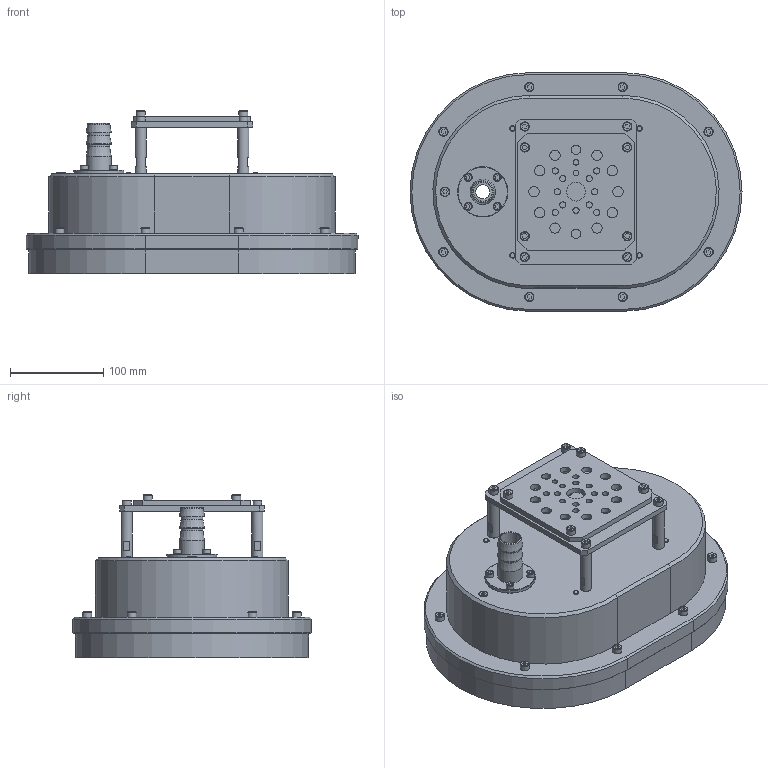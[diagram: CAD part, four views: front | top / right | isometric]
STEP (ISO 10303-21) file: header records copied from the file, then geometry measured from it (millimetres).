
FILE_DESCRIPTION(('STEP AP203'),'1');
FILE_NAME('SGP-H2B-250X350-CRT30-G02.stp','2024-08-07T07:22:05',(' '),(' '),'Spatial InterOp 3D',' ',' ');
FILE_SCHEMA(('CONFIG_CONTROL_DESIGN'));
Length unit declared in the file: millimetre
Products named in the file (43): SGP-H2B-250X350-CRT30-G02; Fitting25; OリングS-31.5; Oリング; プラグ; Body; CBSTS6-12; Stopper; Ring; Pad; shaft 01; Base; SETGR12-50; ねじ: 穴付き - M6.0 x 10.0; ねじ : 穴付き - M5.0 x 10.0; ねじ : 穴付き - M6.0 x 12.0; _SGP-FL-B-f
Assembly tree (42 placements, depth 2):
  SGP-H2B-250X350-CRT30-G02
    Fitting25
    OリングS-31.5
    Oリング
    プラグ
    Body
    CBSTS6-12
    CBSTS6-12
    CBSTS6-12
    CBSTS6-12
    Stopper
    Ring
    Pad
    shaft 01
    Base
    SETGR12-50
    SETGR12-50
    SETGR12-50
    SETGR12-50
    shaft 01
    shaft 01
    shaft 01
    ねじ: 穴付き - M6.0 x 10.0
    ねじ: 穴付き - M6.0 x 10.0
    ねじ: 穴付き - M6.0 x 10.0
    ねじ: 穴付き - M6.0 x 10.0
    ねじ: 穴付き - M6.0 x 10.0
    ねじ: 穴付き - M6.0 x 10.0
    ねじ: 穴付き - M6.0 x 10.0
    ねじ: 穴付き - M6.0 x 10.0
    ねじ : 穴付き - M5.0 x 10.0
    ねじ : 穴付き - M5.0 x 10.0
    ねじ : 穴付き - M5.0 x 10.0
    ねじ : 穴付き - M5.0 x 10.0
    ねじ : 穴付き - M6.0 x 12.0
    ねじ : 穴付き - M6.0 x 12.0
    ねじ : 穴付き - M6.0 x 12.0
    ねじ : 穴付き - M6.0 x 12.0
    ねじ : 穴付き - M6.0 x 12.0
    ねじ : 穴付き - M6.0 x 12.0
    ねじ : 穴付き - M6.0 x 12.0
    ねじ : 穴付き - M6.0 x 12.0
    _SGP-FL-B-f
Bounding box: 356 x 256 x 174.82 mm (x, y, z)
Volume: 2022450 mm3; surface area: 636566.4 mm2
Topology: 42 solids, 42 shells, 795 faces, 1778 edges, 1163 vertices
Faces by surface type: plane 443, cylinder 234, cone 111, torus 7
Full cylindrical faces by diameter (mm): 4.4 x4, 4.917 x4, 5 x12, 5.5 x4, 6 x38, 6.6 x15, 7 x16, 8.385 x4, 8.5 x1, 9.87 x16, 10 x7, 10.5 x4, 11 x10, 12 x4, 13 x4, 15 x31, 20 x6, 23.474 x2, 26 x1, 27 x3, 30 x1, 36 x1, 54 x1, 118 x1
Entity records: 22698 total; most frequent: DIRECTION 3686, CARTESIAN_POINT 3576, ORIENTED_EDGE 2774, AXIS2_PLACEMENT_3D 1467, EDGE_LOOP 1402, EDGE_CURVE 1387, VERTEX_POINT 1093, FACE_OUTER_BOUND 988
